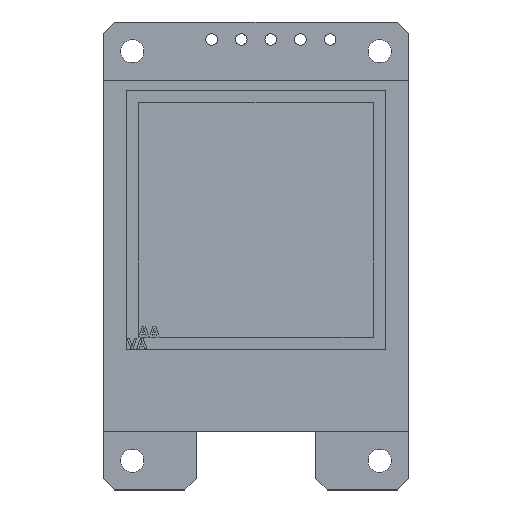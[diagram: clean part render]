
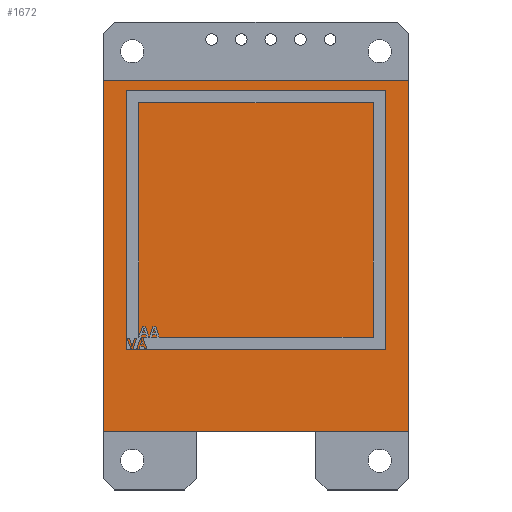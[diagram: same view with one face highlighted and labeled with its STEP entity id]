
A CAD part, top view. The second image highlights one B-rep face of the part: STEP entity #1672.
In plain terms, the highlighted planar face has unit normal (0, 0, 1).
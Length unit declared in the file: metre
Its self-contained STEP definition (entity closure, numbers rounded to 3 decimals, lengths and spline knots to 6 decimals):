
#241=ORIENTED_EDGE('',*,*,#617,.T.);
#242=ORIENTED_EDGE('',*,*,#621,.T.);
#243=ORIENTED_EDGE('',*,*,#624,.F.);
#244=ORIENTED_EDGE('',*,*,#626,.F.);
#617=EDGE_CURVE('',#831,#830,#984,.T.);
#621=EDGE_CURVE('',#830,#833,#988,.T.);
#624=EDGE_CURVE('',#835,#833,#991,.T.);
#626=EDGE_CURVE('',#831,#835,#993,.T.);
#830=VERTEX_POINT('',#2453);
#831=VERTEX_POINT('',#2455);
#833=VERTEX_POINT('',#2461);
#835=VERTEX_POINT('',#2467);
#984=LINE('',#2454,#1173);
#988=LINE('',#2462,#1177);
#991=LINE('',#2468,#1180);
#993=LINE('',#2471,#1182);
#1173=VECTOR('',#2020,1.);
#1177=VECTOR('',#2026,1.);
#1180=VECTOR('',#2031,1.);
#1182=VECTOR('',#2035,1.);
#1374=EDGE_LOOP('',(#241,#242,#243,#244));
#1503=FACE_BOUND('',#1374,.T.);
#1593=PLANE('',#1825);
#1672=ADVANCED_FACE('',(#1503),#1593,.T.);
#1825=AXIS2_PLACEMENT_3D('',#2472,#2036,#2037);
#2020=DIRECTION('',(1.,0.,0.));
#2026=DIRECTION('',(0.,1.,0.));
#2031=DIRECTION('',(1.,0.,0.));
#2035=DIRECTION('',(0.,1.,0.));
#2036=DIRECTION('',(0.,0.,1.));
#2037=DIRECTION('',(1.,0.,0.));
#2453=CARTESIAN_POINT('',(0.0262,0.005,0.0012));
#2454=CARTESIAN_POINT('',(0.0131,0.005,0.0012));
#2455=CARTESIAN_POINT('',(0.,0.005,0.0012));
#2461=CARTESIAN_POINT('',(0.0262,0.0351,0.0012));
#2462=CARTESIAN_POINT('',(0.0262,0.02005,0.0012));
#2467=CARTESIAN_POINT('',(0.,0.0351,0.0012));
#2468=CARTESIAN_POINT('',(0.0131,0.0351,0.0012));
#2471=CARTESIAN_POINT('',(0.,0.02005,0.0012));
#2472=CARTESIAN_POINT('',(0.0131,0.02005,0.0012));
